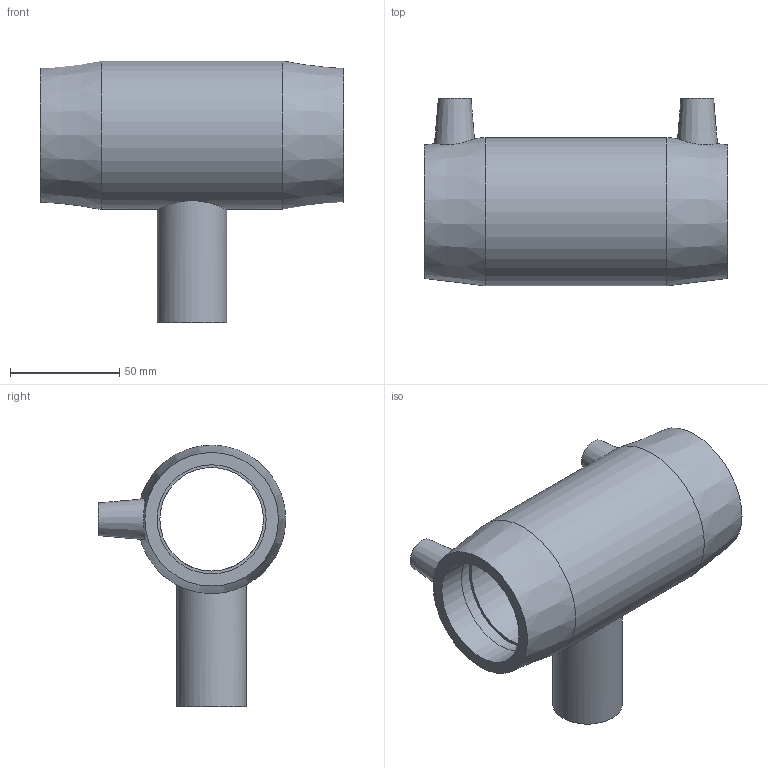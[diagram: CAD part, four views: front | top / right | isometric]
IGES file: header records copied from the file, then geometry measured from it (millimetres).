
Global section: file name: 491404050032.ipt; native system: Autodesk Inventor 2015; preprocessor: unknown; author: KIM; date: 20171106.093842; units: millimetre
Bounding box: 139 x 86 x 120 mm (x, y, z)
Volume: 236326.4 mm3; surface area: 66188.1 mm2
Topology: 1 solids, 1 shells, 31 faces, 72 edges, 52 vertices
Faces by surface type: plane 13, revolution 10, cylinder 4, cone 4
Full cylindrical faces by diameter (mm): 4 x2, 32 x1, 68 x1
